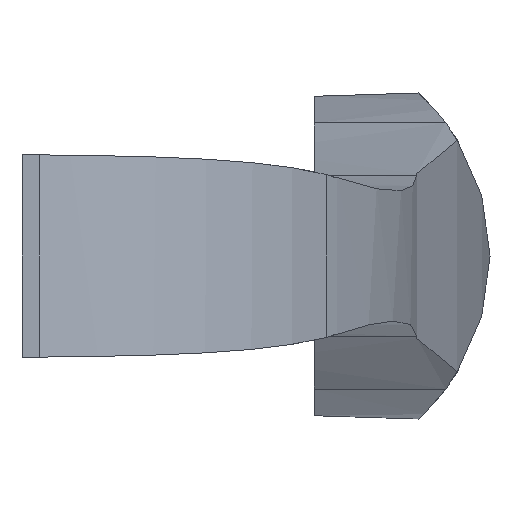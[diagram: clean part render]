
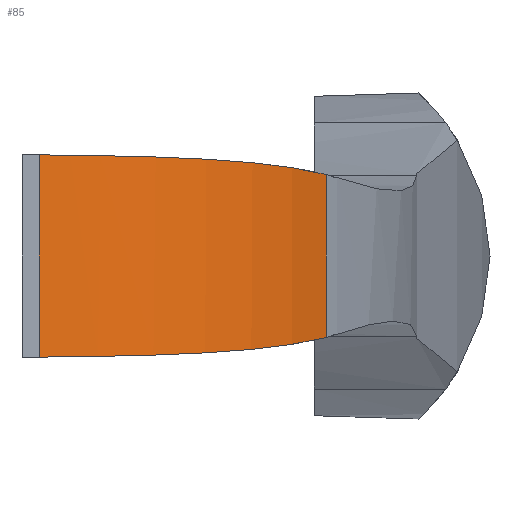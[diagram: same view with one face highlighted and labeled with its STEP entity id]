
A CAD part, left-side view. The second image highlights one B-rep face of the part: STEP entity #85.
In plain terms, the highlighted cylindrical face has radius 31.376 mm (diameter 62.752 mm), a partial arc.
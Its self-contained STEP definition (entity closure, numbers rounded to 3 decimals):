
#85 = ADVANCED_FACE( '', ( #192 ), #193, .T. );
#192 = FACE_OUTER_BOUND( '', #324, .T. );
#193 = CYLINDRICAL_SURFACE( '', #325, 31.376 );
#324 = EDGE_LOOP( '', ( #444, #445, #446, #447 ) );
#325 = AXIS2_PLACEMENT_3D( '', #448, #449, #450 );
#444 = ORIENTED_EDGE( '', *, *, #795, .T. );
#445 = ORIENTED_EDGE( '', *, *, #796, .T. );
#446 = ORIENTED_EDGE( '', *, *, #797, .T. );
#447 = ORIENTED_EDGE( '', *, *, #798, .F. );
#448 = CARTESIAN_POINT( '', ( 25.434, 6.46, 30. ) );
#449 = DIRECTION( '', ( 0., 0., 1. ) );
#450 = DIRECTION( '', ( -1., 0., 0. ) );
#795 = EDGE_CURVE( '', #932, #933, #934, .T. );
#796 = EDGE_CURVE( '', #933, #935, #936, .T. );
#797 = EDGE_CURVE( '', #935, #937, #938, .T. );
#798 = EDGE_CURVE( '', #932, #937, #939, .T. );
#932 = VERTEX_POINT( '', #1136 );
#933 = VERTEX_POINT( '', #1137 );
#934 = B_SPLINE_CURVE_WITH_KNOTS( '', 3, ( #1138, #1139, #1140, #1141, #1142, #1143, #1144, #1145, #1146, #1147, #1148, #1149, #1150, #1151, #1152, #1153 ), .UNSPECIFIED., .F., .F., ( 4, 2, 2, 2, 2, 2, 2, 4 ), ( 0., 0.006, 0.009, 0.011, 0.013, 0.019, 0.022, 0.025 ), .UNSPECIFIED. );
#935 = VERTEX_POINT( '', #1154 );
#936 = LINE( '', #1155, #1156 );
#937 = VERTEX_POINT( '', #1157 );
#938 = B_SPLINE_CURVE_WITH_KNOTS( '', 3, ( #1158, #1159, #1160, #1161, #1162, #1163, #1164, #1165, #1166, #1167, #1168, #1169, #1170, #1171, #1172, #1173, #1174, #1175 ), .UNSPECIFIED., .F., .F., ( 4, 2, 2, 2, 2, 2, 2, 2, 4 ), ( 0., 0.006, 0.009, 0.011, 0.013, 0.019, 0.02, 0.022, 0.025 ), .UNSPECIFIED. );
#939 = LINE( '', #1176, #1177 );
#1136 = CARTESIAN_POINT( '', ( 9.886, -20.793, 5.566 ) );
#1137 = CARTESIAN_POINT( '', ( -4.998, -1.181, 6.913 ) );
#1138 = CARTESIAN_POINT( '', ( 9.886, -20.793, 5.566 ) );
#1139 = CARTESIAN_POINT( '', ( 8.051, -19.746, 5.841 ) );
#1140 = CARTESIAN_POINT( '', ( 6.347, -18.531, 6.055 ) );
#1141 = CARTESIAN_POINT( '', ( 3.984, -16.463, 6.313 ) );
#1142 = CARTESIAN_POINT( '', ( 3.228, -15.732, 6.388 ) );
#1143 = CARTESIAN_POINT( '', ( 2.145, -14.572, 6.486 ) );
#1144 = CARTESIAN_POINT( '', ( 1.791, -14.174, 6.517 ) );
#1145 = CARTESIAN_POINT( '', ( 1.108, -13.364, 6.573 ) );
#1146 = CARTESIAN_POINT( '', ( 0.777, -12.951, 6.599 ) );
#1147 = CARTESIAN_POINT( '', ( -0.817, -10.854, 6.718 ) );
#1148 = CARTESIAN_POINT( '', ( -1.914, -9.064, 6.781 ) );
#1149 = CARTESIAN_POINT( '', ( -3.289, -6.212, 6.848 ) );
#1150 = CARTESIAN_POINT( '', ( -3.703, -5.228, 6.866 ) );
#1151 = CARTESIAN_POINT( '', ( -4.427, -3.23, 6.894 ) );
#1152 = CARTESIAN_POINT( '', ( -4.738, -2.214, 6.905 ) );
#1153 = CARTESIAN_POINT( '', ( -4.998, -1.181, 6.913 ) );
#1154 = CARTESIAN_POINT( '', ( -4.998, -1.181, -6.913 ) );
#1155 = CARTESIAN_POINT( '', ( -4.998, -1.181, 30. ) );
#1156 = VECTOR( '', #1730, 1000. );
#1157 = CARTESIAN_POINT( '', ( 9.886, -20.793, -5.566 ) );
#1158 = CARTESIAN_POINT( '', ( -4.998, -1.181, -6.913 ) );
#1159 = CARTESIAN_POINT( '', ( -4.479, -3.247, -6.896 ) );
#1160 = CARTESIAN_POINT( '', ( -3.761, -5.225, -6.871 ) );
#1161 = CARTESIAN_POINT( '', ( -2.397, -8.066, -6.805 ) );
#1162 = CARTESIAN_POINT( '', ( -1.894, -8.991, -6.778 ) );
#1163 = CARTESIAN_POINT( '', ( -1.066, -10.347, -6.728 ) );
#1164 = CARTESIAN_POINT( '', ( -0.777, -10.795, -6.709 ) );
#1165 = CARTESIAN_POINT( '', ( -0.179, -11.671, -6.669 ) );
#1166 = CARTESIAN_POINT( '', ( 0.131, -12.1, -6.647 ) );
#1167 = CARTESIAN_POINT( '', ( 1.725, -14.199, -6.528 ) );
#1168 = CARTESIAN_POINT( '', ( 3.153, -15.732, -6.403 ) );
#1169 = CARTESIAN_POINT( '', ( 5.13, -17.466, -6.188 ) );
#1170 = CARTESIAN_POINT( '', ( 5.534, -17.804, -6.142 ) );
#1171 = CARTESIAN_POINT( '', ( 6.363, -18.461, -6.044 ) );
#1172 = CARTESIAN_POINT( '', ( 6.788, -18.78, -5.992 ) );
#1173 = CARTESIAN_POINT( '', ( 8.079, -19.701, -5.826 ) );
#1174 = CARTESIAN_POINT( '', ( 8.969, -20.27, -5.703 ) );
#1175 = CARTESIAN_POINT( '', ( 9.886, -20.793, -5.566 ) );
#1176 = CARTESIAN_POINT( '', ( 9.886, -20.793, 30. ) );
#1177 = VECTOR( '', #1731, 1000. );
#1730 = DIRECTION( '', ( 0., 0., -1. ) );
#1731 = DIRECTION( '', ( 0., 0., -1. ) );
